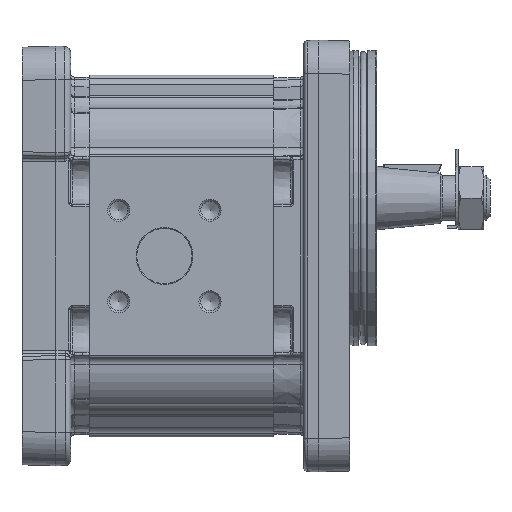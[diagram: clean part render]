
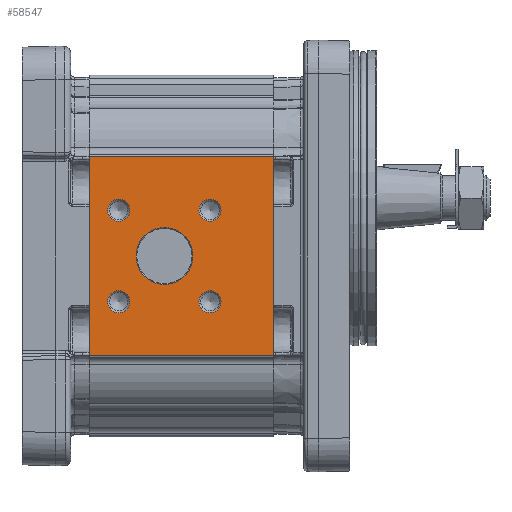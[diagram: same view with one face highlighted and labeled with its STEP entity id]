
A CAD part, left-side view. The second image highlights one B-rep face of the part: STEP entity #58547.
In plain terms, the highlighted planar face has unit normal (-1, 0, 0) as drawn and (1, 0, 0) by its records, which use the part's own axes.
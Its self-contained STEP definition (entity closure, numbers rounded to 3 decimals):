
#2999=PLANE('',#62043);
#4532=CIRCLE('',#62044,7.7);
#4533=CIRCLE('',#62045,3.);
#4534=CIRCLE('',#62046,3.);
#4535=CIRCLE('',#62047,3.);
#4536=CIRCLE('',#62048,3.);
#11216=ORIENTED_EDGE('',*,*,#21677,.T.);
#11217=ORIENTED_EDGE('',*,*,#21678,.T.);
#11218=ORIENTED_EDGE('',*,*,#21679,.T.);
#11219=ORIENTED_EDGE('',*,*,#21680,.T.);
#11220=ORIENTED_EDGE('',*,*,#21681,.T.);
#11221=ORIENTED_EDGE('',*,*,#21656,.F.);
#11222=ORIENTED_EDGE('',*,*,#21682,.F.);
#11223=ORIENTED_EDGE('',*,*,#21586,.T.);
#11224=ORIENTED_EDGE('',*,*,#21683,.T.);
#21586=EDGE_CURVE('',#27147,#27146,#30284,.T.);
#21656=EDGE_CURVE('',#27214,#27215,#30296,.T.);
#21677=EDGE_CURVE('',#27219,#27219,#4532,.F.);
#21678=EDGE_CURVE('',#27220,#27220,#4533,.F.);
#21679=EDGE_CURVE('',#27221,#27221,#4534,.F.);
#21680=EDGE_CURVE('',#27222,#27222,#4535,.F.);
#21681=EDGE_CURVE('',#27223,#27223,#4536,.F.);
#21682=EDGE_CURVE('',#27147,#27214,#30313,.T.);
#21683=EDGE_CURVE('',#27146,#27215,#30314,.T.);
#27146=VERTEX_POINT('',#105194);
#27147=VERTEX_POINT('',#105196);
#27214=VERTEX_POINT('',#105333);
#27215=VERTEX_POINT('',#105335);
#27219=VERTEX_POINT('',#105369);
#27220=VERTEX_POINT('',#105371);
#27221=VERTEX_POINT('',#105373);
#27222=VERTEX_POINT('',#105375);
#27223=VERTEX_POINT('',#105377);
#30284=LINE('',#105195,#32400);
#30296=LINE('',#105334,#32412);
#30313=LINE('',#105378,#32429);
#30314=LINE('',#105379,#32430);
#32400=VECTOR('',#69665,1000.);
#32412=VECTOR('',#69795,1000.);
#32429=VECTOR('',#69848,1000.);
#32430=VECTOR('',#69849,1000.);
#35199=EDGE_LOOP('',(#11216));
#35200=EDGE_LOOP('',(#11217));
#35201=EDGE_LOOP('',(#11218));
#35202=EDGE_LOOP('',(#11219));
#35203=EDGE_LOOP('',(#11220));
#35204=EDGE_LOOP('',(#11221,#11222,#11223,#11224));
#38069=FACE_BOUND('',#35199,.T.);
#38070=FACE_BOUND('',#35200,.T.);
#38071=FACE_BOUND('',#35201,.T.);
#38072=FACE_BOUND('',#35202,.T.);
#38073=FACE_BOUND('',#35203,.T.);
#38074=FACE_BOUND('',#35204,.T.);
#58547=ADVANCED_FACE('',(#38069,#38070,#38071,#38072,#38073,#38074),#2999,
 .T.);
#62043=AXIS2_PLACEMENT_3D('',#105367,#69836,#69837);
#62044=AXIS2_PLACEMENT_3D('',#105368,#69838,#69839);
#62045=AXIS2_PLACEMENT_3D('',#105370,#69840,#69841);
#62046=AXIS2_PLACEMENT_3D('',#105372,#69842,#69843);
#62047=AXIS2_PLACEMENT_3D('',#105374,#69844,#69845);
#62048=AXIS2_PLACEMENT_3D('',#105376,#69846,#69847);
#69665=DIRECTION('',(0.,0.,1.));
#69795=DIRECTION('',(0.,0.,1.));
#69836=DIRECTION('',(1.,0.,0.));
#69837=DIRECTION('',(0.,0.,-1.));
#69838=DIRECTION('',(1.,0.,0.));
#69839=DIRECTION('',(0.,0.,-1.));
#69840=DIRECTION('',(1.,0.,0.));
#69841=DIRECTION('',(0.,0.,-1.));
#69842=DIRECTION('',(1.,0.,0.));
#69843=DIRECTION('',(0.,0.,-1.));
#69844=DIRECTION('',(1.,0.,0.));
#69845=DIRECTION('',(0.,0.,-1.));
#69846=DIRECTION('',(1.,0.,0.));
#69847=DIRECTION('',(0.,0.,-1.));
#69848=DIRECTION('',(0.,-1.,0.));
#69849=DIRECTION('',(0.,-1.,0.));
#105194=CARTESIAN_POINT('',(43.,50.,27.048));
#105195=CARTESIAN_POINT('',(43.,50.,27.048));
#105196=CARTESIAN_POINT('',(43.,50.,-27.048));
#105333=CARTESIAN_POINT('',(43.,0.,-27.048));
#105334=CARTESIAN_POINT('',(43.,0.,27.048));
#105335=CARTESIAN_POINT('',(43.,0.,27.048));
#105367=CARTESIAN_POINT('',(43.,50.,27.048));
#105368=CARTESIAN_POINT('',(43.,29.6,0.));
#105369=CARTESIAN_POINT('',(43.,29.6,-7.7));
#105370=CARTESIAN_POINT('',(43.,41.974,-12.374));
#105371=CARTESIAN_POINT('',(43.,41.974,-15.374));
#105372=CARTESIAN_POINT('',(43.,41.974,12.374));
#105373=CARTESIAN_POINT('',(43.,41.974,9.374));
#105374=CARTESIAN_POINT('',(43.,17.226,12.374));
#105375=CARTESIAN_POINT('',(43.,17.226,9.374));
#105376=CARTESIAN_POINT('',(43.,17.226,-12.374));
#105377=CARTESIAN_POINT('',(43.,17.226,-15.374));
#105378=CARTESIAN_POINT('',(43.,50.,-27.048));
#105379=CARTESIAN_POINT('',(43.,50.,27.048));
